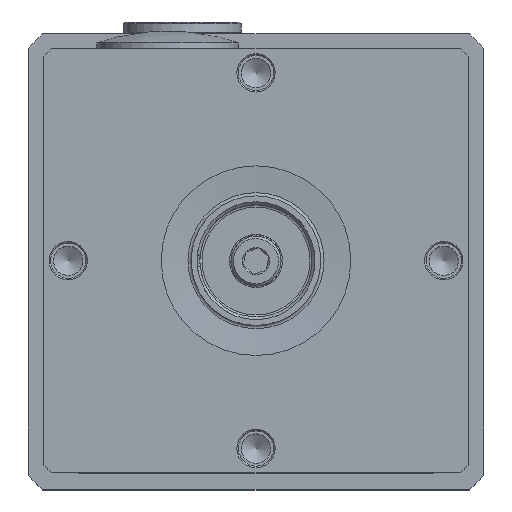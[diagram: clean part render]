
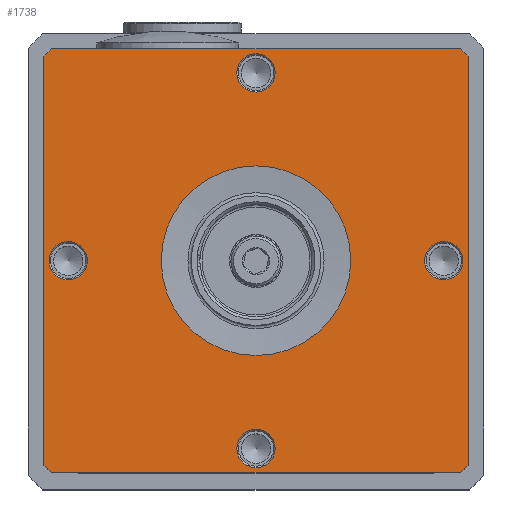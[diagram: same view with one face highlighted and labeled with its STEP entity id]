
A CAD part, top view. The second image highlights one B-rep face of the part: STEP entity #1738.
In plain terms, the highlighted planar face has unit normal (0, 0, 1).
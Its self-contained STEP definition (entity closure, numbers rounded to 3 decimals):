
#145 = ORIENTED_EDGE ( 'NONE', *, *, #3213, .F. ) ;
#670 = CARTESIAN_POINT ( 'NONE',  ( -36., 34.699, 42. ) ) ;
#753 = CARTESIAN_POINT ( 'NONE',  ( 0., 0., 42. ) ) ;
#895 = AXIS2_PLACEMENT_3D ( 'NONE', #3218, #31312, #17802 ) ;
#992 = DIRECTION ( 'NONE',  ( 1., 0., 0. ) ) ;
#1089 = EDGE_LOOP ( 'NONE', ( #24227 ) ) ;
#1192 = EDGE_CURVE ( 'NONE', #19963, #21695, #27301, .T. ) ;
#1280 = VECTOR ( 'NONE', #992, 1000. ) ;
#1738 = ADVANCED_FACE ( 'NONE', ( #16588, #19909, #27217, #23244, #6384, #7250 ), #20136, .T. ) ;
#2174 = ORIENTED_EDGE ( 'NONE', *, *, #16860, .F. ) ;
#2321 = CARTESIAN_POINT ( 'NONE',  ( 36., 36., 42. ) ) ;
#2842 = VERTEX_POINT ( 'NONE', #5297 ) ;
#2889 = DIRECTION ( 'NONE',  ( 1., 0., 0. ) ) ;
#3012 = CARTESIAN_POINT ( 'NONE',  ( 3.25, 31.877, 42. ) ) ;
#3213 = EDGE_CURVE ( 'NONE', #29513, #4875, #15594, .T. ) ;
#3218 = CARTESIAN_POINT ( 'NONE',  ( 0., 0., 42. ) ) ;
#3392 = EDGE_CURVE ( 'NONE', #21695, #34438, #15001, .T. ) ;
#3934 = DIRECTION ( 'NONE',  ( 0., 0., 1. ) ) ;
#4221 = DIRECTION ( 'NONE',  ( -1., 0., 0. ) ) ;
#4433 = CARTESIAN_POINT ( 'NONE',  ( 35.127, 0., 42. ) ) ;
#4735 = CIRCLE ( 'NONE', #30224, 50. ) ;
#4807 = CARTESIAN_POINT ( 'NONE',  ( 0., 0., 42. ) ) ;
#4875 = VERTEX_POINT ( 'NONE', #36649 ) ;
#5297 = CARTESIAN_POINT ( 'NONE',  ( -28.627, 0., 42. ) ) ;
#5372 = EDGE_LOOP ( 'NONE', ( #2174 ) ) ;
#6384 = FACE_OUTER_BOUND ( 'NONE', #6462, .T. ) ;
#6462 = EDGE_LOOP ( 'NONE', ( #31032, #43193, #18030, #41405, #145, #12255, #31731, #38667 ) ) ;
#6463 = DIRECTION ( 'NONE',  ( 1., 0., 0. ) ) ;
#7062 = AXIS2_PLACEMENT_3D ( 'NONE', #22833, #3934, #2889 ) ;
#7250 = FACE_BOUND ( 'NONE', #26864, .T. ) ;
#7516 = EDGE_CURVE ( 'NONE', #2842, #2842, #35087, .T. ) ;
#8661 = EDGE_CURVE ( 'NONE', #17857, #19963, #4735, .T. ) ;
#8771 = CARTESIAN_POINT ( 'NONE',  ( 34.699, 36., 42. ) ) ;
#9209 = VECTOR ( 'NONE', #41228, 1000. ) ;
#9758 = DIRECTION ( 'NONE',  ( 0., 0., 1. ) ) ;
#10303 = CARTESIAN_POINT ( 'NONE',  ( 50., -36., 42. ) ) ;
#10810 = DIRECTION ( 'NONE',  ( 0., 0., 1. ) ) ;
#11951 = DIRECTION ( 'NONE',  ( -1., 0., 0. ) ) ;
#12255 = ORIENTED_EDGE ( 'NONE', *, *, #20281, .F. ) ;
#14960 = EDGE_CURVE ( 'NONE', #34438, #42627, #21586, .T. ) ;
#15001 = CIRCLE ( 'NONE', #895, 50. ) ;
#15029 = ORIENTED_EDGE ( 'NONE', *, *, #7516, .F. ) ;
#15594 = LINE ( 'NONE', #2321, #15751 ) ;
#15751 = VECTOR ( 'NONE', #19620, 1000. ) ;
#15757 = VERTEX_POINT ( 'NONE', #28628 ) ;
#15850 = AXIS2_PLACEMENT_3D ( 'NONE', #38535, #10810, #27692 ) ;
#15984 = AXIS2_PLACEMENT_3D ( 'NONE', #33942, #9758, #6463 ) ;
#16567 = LINE ( 'NONE', #10303, #35805 ) ;
#16588 = FACE_BOUND ( 'NONE', #5372, .T. ) ;
#16860 = EDGE_CURVE ( 'NONE', #33367, #33367, #40038, .T. ) ;
#17096 = CARTESIAN_POINT ( 'NONE',  ( -34.699, 36., 42. ) ) ;
#17175 = EDGE_CURVE ( 'NONE', #20479, #17857, #16567, .T. ) ;
#17616 = CARTESIAN_POINT ( 'NONE',  ( -34.699, -36., 42. ) ) ;
#17802 = DIRECTION ( 'NONE',  ( -1., 0., 0. ) ) ;
#17857 = VERTEX_POINT ( 'NONE', #17616 ) ;
#18030 = ORIENTED_EDGE ( 'NONE', *, *, #17175, .F. ) ;
#19189 = CARTESIAN_POINT ( 'NONE',  ( 3.25, -31.877, 42. ) ) ;
#19620 = DIRECTION ( 'NONE',  ( 0., -1., 0. ) ) ;
#19909 = FACE_BOUND ( 'NONE', #37331, .T. ) ;
#19963 = VERTEX_POINT ( 'NONE', #28321 ) ;
#20136 = PLANE ( 'NONE',  #32653 ) ;
#20281 = EDGE_CURVE ( 'NONE', #42627, #29513, #36151, .T. ) ;
#20479 = VERTEX_POINT ( 'NONE', #23287 ) ;
#21586 = LINE ( 'NONE', #28020, #1280 ) ;
#21695 = VERTEX_POINT ( 'NONE', #670 ) ;
#22134 = CIRCLE ( 'NONE', #24243, 50. ) ;
#22833 = CARTESIAN_POINT ( 'NONE',  ( 31.877, 0., 42. ) ) ;
#23244 = FACE_BOUND ( 'NONE', #1089, .T. ) ;
#23287 = CARTESIAN_POINT ( 'NONE',  ( 34.699, -36., 42. ) ) ;
#24078 = DIRECTION ( 'NONE',  ( 0., 0., -1. ) ) ;
#24227 = ORIENTED_EDGE ( 'NONE', *, *, #38091, .F. ) ;
#24243 = AXIS2_PLACEMENT_3D ( 'NONE', #30826, #34373, #4221 ) ;
#24610 = CARTESIAN_POINT ( 'NONE',  ( -36., -50., 42. ) ) ;
#26633 = EDGE_CURVE ( 'NONE', #32039, #32039, #29304, .T. ) ;
#26864 = EDGE_LOOP ( 'NONE', ( #30506 ) ) ;
#27217 = FACE_BOUND ( 'NONE', #33742, .T. ) ;
#27301 = LINE ( 'NONE', #24610, #9209 ) ;
#27692 = DIRECTION ( 'NONE',  ( 1., 0., 0. ) ) ;
#28020 = CARTESIAN_POINT ( 'NONE',  ( -50., 36., 42. ) ) ;
#28321 = CARTESIAN_POINT ( 'NONE',  ( -36., -34.699, 42. ) ) ;
#28342 = CARTESIAN_POINT ( 'NONE',  ( 36., 34.699, 42. ) ) ;
#28388 = CARTESIAN_POINT ( 'NONE',  ( 0., 0., 42. ) ) ;
#28628 = CARTESIAN_POINT ( 'NONE',  ( -16.094, 0., 42. ) ) ;
#28928 = CARTESIAN_POINT ( 'NONE',  ( 0., 31.877, 42. ) ) ;
#29165 = AXIS2_PLACEMENT_3D ( 'NONE', #753, #31108, #41289 ) ;
#29304 = CIRCLE ( 'NONE', #15850, 3.25 ) ;
#29513 = VERTEX_POINT ( 'NONE', #28342 ) ;
#29688 = ORIENTED_EDGE ( 'NONE', *, *, #26633, .F. ) ;
#30224 = AXIS2_PLACEMENT_3D ( 'NONE', #28388, #32395, #11951 ) ;
#30318 = CARTESIAN_POINT ( 'NONE',  ( 0., 50., 42. ) ) ;
#30506 = ORIENTED_EDGE ( 'NONE', *, *, #31888, .T. ) ;
#30826 = CARTESIAN_POINT ( 'NONE',  ( 0., 0., 42. ) ) ;
#31032 = ORIENTED_EDGE ( 'NONE', *, *, #1192, .F. ) ;
#31108 = DIRECTION ( 'NONE',  ( 0., 0., -1. ) ) ;
#31158 = CIRCLE ( 'NONE', #7062, 3.25 ) ;
#31286 = CIRCLE ( 'NONE', #29165, 16.094 ) ;
#31312 = DIRECTION ( 'NONE',  ( 0., 0., -1. ) ) ;
#31731 = ORIENTED_EDGE ( 'NONE', *, *, #14960, .F. ) ;
#31801 = DIRECTION ( 'NONE',  ( 1., 0., 0. ) ) ;
#31816 = DIRECTION ( 'NONE',  ( -1., 0., 0. ) ) ;
#31888 = EDGE_CURVE ( 'NONE', #15757, #15757, #31286, .T. ) ;
#32039 = VERTEX_POINT ( 'NONE', #19189 ) ;
#32395 = DIRECTION ( 'NONE',  ( 0., 0., -1. ) ) ;
#32653 = AXIS2_PLACEMENT_3D ( 'NONE', #30318, #40933, #43830 ) ;
#33367 = VERTEX_POINT ( 'NONE', #3012 ) ;
#33742 = EDGE_LOOP ( 'NONE', ( #29688 ) ) ;
#33942 = CARTESIAN_POINT ( 'NONE',  ( -31.877, 0., 42. ) ) ;
#34373 = DIRECTION ( 'NONE',  ( 0., 0., -1. ) ) ;
#34438 = VERTEX_POINT ( 'NONE', #17096 ) ;
#34726 = AXIS2_PLACEMENT_3D ( 'NONE', #4807, #24078, #31816 ) ;
#35087 = CIRCLE ( 'NONE', #15984, 3.25 ) ;
#35805 = VECTOR ( 'NONE', #37164, 1000. ) ;
#36151 = CIRCLE ( 'NONE', #34726, 50. ) ;
#36649 = CARTESIAN_POINT ( 'NONE',  ( 36., -34.699, 42. ) ) ;
#37164 = DIRECTION ( 'NONE',  ( -1., 0., 0. ) ) ;
#37331 = EDGE_LOOP ( 'NONE', ( #15029 ) ) ;
#38091 = EDGE_CURVE ( 'NONE', #41633, #41633, #31158, .T. ) ;
#38535 = CARTESIAN_POINT ( 'NONE',  ( 0., -31.877, 42. ) ) ;
#38667 = ORIENTED_EDGE ( 'NONE', *, *, #3392, .F. ) ;
#39305 = AXIS2_PLACEMENT_3D ( 'NONE', #28928, #43489, #31801 ) ;
#40038 = CIRCLE ( 'NONE', #39305, 3.25 ) ;
#40933 = DIRECTION ( 'NONE',  ( 0., 0., 1. ) ) ;
#41228 = DIRECTION ( 'NONE',  ( 0., 1., 0. ) ) ;
#41289 = DIRECTION ( 'NONE',  ( -1., 0., 0. ) ) ;
#41324 = EDGE_CURVE ( 'NONE', #4875, #20479, #22134, .T. ) ;
#41405 = ORIENTED_EDGE ( 'NONE', *, *, #41324, .F. ) ;
#41633 = VERTEX_POINT ( 'NONE', #4433 ) ;
#42627 = VERTEX_POINT ( 'NONE', #8771 ) ;
#43193 = ORIENTED_EDGE ( 'NONE', *, *, #8661, .F. ) ;
#43489 = DIRECTION ( 'NONE',  ( 0., 0., 1. ) ) ;
#43830 = DIRECTION ( 'NONE',  ( 1., 0., 0. ) ) ;
